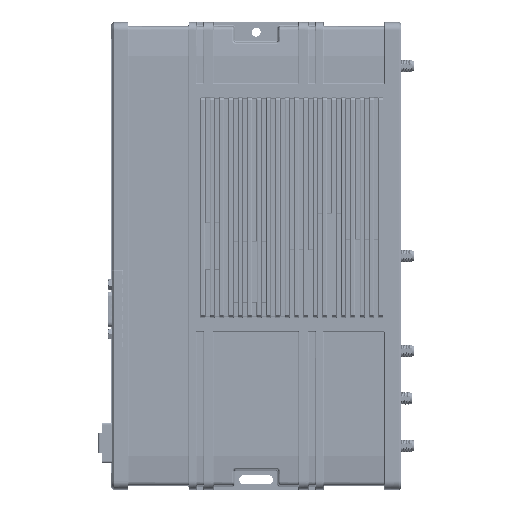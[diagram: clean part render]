
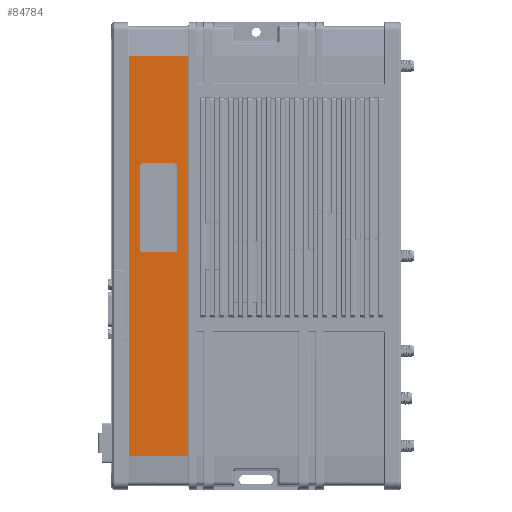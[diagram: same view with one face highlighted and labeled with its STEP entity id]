
A CAD part, top view. The second image highlights one B-rep face of the part: STEP entity #84784.
In plain terms, the highlighted planar face has unit normal (0, 0, 1).
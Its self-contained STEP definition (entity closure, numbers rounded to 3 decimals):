
#84784 = ADVANCED_FACE('',(#84785,#84846),#84880,.F.);
#84785 = FACE_BOUND('',#84786,.T.);
#84786 = EDGE_LOOP('',(#84787,#84797,#84805,#84814,#84822,#84831,#84839)
  );
#84787 = ORIENTED_EDGE('',*,*,#84788,.F.);
#84788 = EDGE_CURVE('',#84789,#84791,#84793,.T.);
#84789 = VERTEX_POINT('',#84790);
#84790 = CARTESIAN_POINT('',(47.85,76.901,9.1));
#84791 = VERTEX_POINT('',#84792);
#84792 = CARTESIAN_POINT('',(47.85,119.701,9.1));
#84793 = LINE('',#84794,#84795);
#84794 = CARTESIAN_POINT('',(47.85,119.701,9.1));
#84795 = VECTOR('',#84796,1.);
#84796 = DIRECTION('',(0.,1.,0.));
#84797 = ORIENTED_EDGE('',*,*,#84798,.F.);
#84798 = EDGE_CURVE('',#84799,#84789,#84801,.T.);
#84799 = VERTEX_POINT('',#84800);
#84800 = CARTESIAN_POINT('',(31.05,76.901,9.1));
#84801 = LINE('',#84802,#84803);
#84802 = CARTESIAN_POINT('',(47.85,76.901,9.1));
#84803 = VECTOR('',#84804,1.);
#84804 = DIRECTION('',(1.,0.,0.));
#84805 = ORIENTED_EDGE('',*,*,#84806,.F.);
#84806 = EDGE_CURVE('',#84807,#84799,#84809,.T.);
#84807 = VERTEX_POINT('',#84808);
#84808 = CARTESIAN_POINT('',(29.35,78.601,9.1));
#84809 = CIRCLE('',#84810,1.7);
#84810 = AXIS2_PLACEMENT_3D('',#84811,#84812,#84813);
#84811 = CARTESIAN_POINT('',(31.05,78.601,9.1));
#84812 = DIRECTION('',(0.,0.,1.));
#84813 = DIRECTION('',(-1.,0.,0.));
#84814 = ORIENTED_EDGE('',*,*,#84815,.F.);
#84815 = EDGE_CURVE('',#84816,#84807,#84818,.T.);
#84816 = VERTEX_POINT('',#84817);
#84817 = CARTESIAN_POINT('',(29.35,119.701,9.1));
#84818 = LINE('',#84819,#84820);
#84819 = CARTESIAN_POINT('',(29.35,119.701,9.1));
#84820 = VECTOR('',#84821,1.);
#84821 = DIRECTION('',(0.,-1.,0.));
#84822 = ORIENTED_EDGE('',*,*,#84823,.F.);
#84823 = EDGE_CURVE('',#84824,#84816,#84826,.T.);
#84824 = VERTEX_POINT('',#84825);
#84825 = CARTESIAN_POINT('',(31.05,121.401,9.1));
#84826 = CIRCLE('',#84827,1.7);
#84827 = AXIS2_PLACEMENT_3D('',#84828,#84829,#84830);
#84828 = CARTESIAN_POINT('',(31.05,119.701,9.1));
#84829 = DIRECTION('',(0.,0.,1.));
#84830 = DIRECTION('',(1.,0.,0.));
#84831 = ORIENTED_EDGE('',*,*,#84832,.F.);
#84832 = EDGE_CURVE('',#84833,#84824,#84835,.T.);
#84833 = VERTEX_POINT('',#84834);
#84834 = CARTESIAN_POINT('',(46.15,121.401,9.1));
#84835 = LINE('',#84836,#84837);
#84836 = CARTESIAN_POINT('',(46.15,121.401,9.1));
#84837 = VECTOR('',#84838,1.);
#84838 = DIRECTION('',(-1.,0.,0.));
#84839 = ORIENTED_EDGE('',*,*,#84840,.F.);
#84840 = EDGE_CURVE('',#84791,#84833,#84841,.T.);
#84841 = CIRCLE('',#84842,1.7);
#84842 = AXIS2_PLACEMENT_3D('',#84843,#84844,#84845);
#84843 = CARTESIAN_POINT('',(46.15,119.701,9.1));
#84844 = DIRECTION('',(0.,0.,1.));
#84845 = DIRECTION('',(-1.,0.,0.));
#84846 = FACE_BOUND('',#84847,.T.);
#84847 = EDGE_LOOP('',(#84848,#84858,#84866,#84874));
#84848 = ORIENTED_EDGE('',*,*,#84849,.T.);
#84849 = EDGE_CURVE('',#84850,#84852,#84854,.T.);
#84850 = VERTEX_POINT('',#84851);
#84851 = CARTESIAN_POINT('',(53.497,175.074,
    9.1));
#84852 = VERTEX_POINT('',#84853);
#84853 = CARTESIAN_POINT('',(23.703,175.074,
    9.1));
#84854 = LINE('',#84855,#84856);
#84855 = CARTESIAN_POINT('',(87.5,175.074,9.1));
#84856 = VECTOR('',#84857,1.);
#84857 = DIRECTION('',(-1.,-0.,-0.));
#84858 = ORIENTED_EDGE('',*,*,#84859,.T.);
#84859 = EDGE_CURVE('',#84852,#84860,#84862,.T.);
#84860 = VERTEX_POINT('',#84861);
#84861 = CARTESIAN_POINT('',(23.703,-25.074,
    9.1));
#84862 = LINE('',#84863,#84864);
#84863 = CARTESIAN_POINT('',(23.703,75.,9.1));
#84864 = VECTOR('',#84865,1.);
#84865 = DIRECTION('',(0.,-1.,0.));
#84866 = ORIENTED_EDGE('',*,*,#84867,.T.);
#84867 = EDGE_CURVE('',#84860,#84868,#84870,.T.);
#84868 = VERTEX_POINT('',#84869);
#84869 = CARTESIAN_POINT('',(53.497,-25.074,
    9.1));
#84870 = LINE('',#84871,#84872);
#84871 = CARTESIAN_POINT('',(87.5,-25.074,9.1));
#84872 = VECTOR('',#84873,1.);
#84873 = DIRECTION('',(1.,0.,0.));
#84874 = ORIENTED_EDGE('',*,*,#84875,.T.);
#84875 = EDGE_CURVE('',#84868,#84850,#84876,.T.);
#84876 = LINE('',#84877,#84878);
#84877 = CARTESIAN_POINT('',(53.497,75.,9.1));
#84878 = VECTOR('',#84879,1.);
#84879 = DIRECTION('',(0.,1.,0.));
#84880 = PLANE('',#84881);
#84881 = AXIS2_PLACEMENT_3D('',#84882,#84883,#84884);
#84882 = CARTESIAN_POINT('',(87.5,75.,9.1));
#84883 = DIRECTION('',(0.,0.,-1.));
#84884 = DIRECTION('',(-1.,0.,0.));
